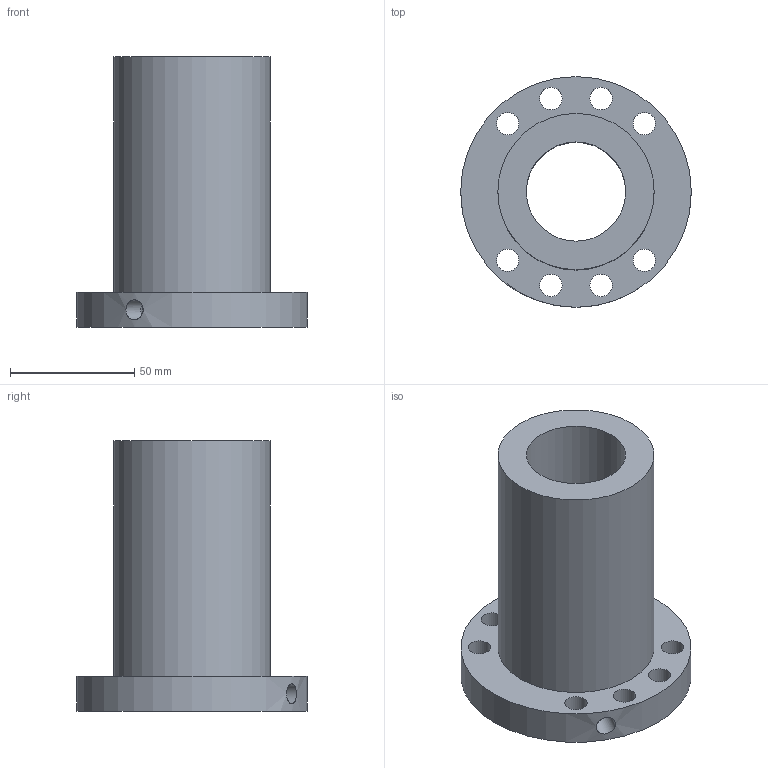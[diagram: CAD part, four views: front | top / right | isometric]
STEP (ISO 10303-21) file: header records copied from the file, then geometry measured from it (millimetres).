
FILE_DESCRIPTION(/* description */ (''),/* implementation_level */ '2;1');
FILE_NAME(/* name */ '40-6K53969',/* time_stamp */ '2007-10-15T12:53:57+08:00',/* author */ (''),/* organization */ (''),/* preprocessor_version */ 'ST-DEVELOPER v11',/* originating_system */ 'UGS - NX 5.0',/* authorisation */ '');
FILE_SCHEMA (('CONFIG_CONTROL_DESIGN'));
Length unit declared in the file: millimetre
Products named in the file (1): 40-6K53969
Bounding box: 93 x 93 x 109 mm (x, y, z)
Volume: 246128.2 mm3; surface area: 50329.8 mm2
Topology: 1 solids, 1 shells, 17 faces, 40 edges, 27 vertices
Faces by surface type: cylinder 13, plane 4
Full cylindrical faces by diameter (mm): 6 x1, 8 x1, 9 x8, 40 x1, 63 x1, 93 x1
Entity records: 668 total; most frequent: CARTESIAN_POINT 184, DIRECTION 84, FACE_BOUND 52, EDGE_LOOP 52, ORIENTED_EDGE 52, AXIS2_PLACEMENT_3D 42, VERTEX_POINT 26, EDGE_CURVE 26
